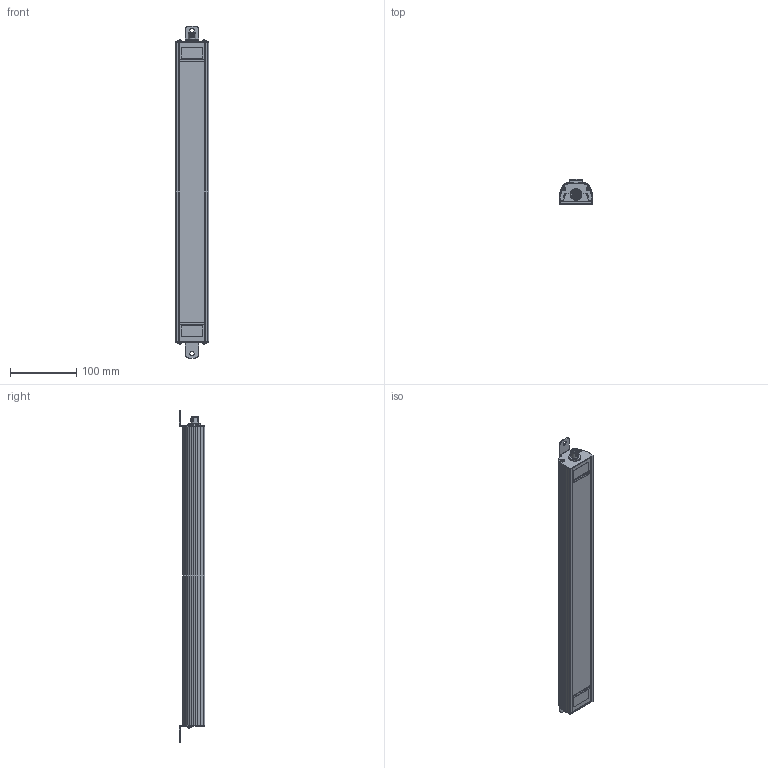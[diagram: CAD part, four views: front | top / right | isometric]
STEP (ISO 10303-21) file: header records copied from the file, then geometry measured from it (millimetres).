
FILE_DESCRIPTION (( 'STEP AP203' ), '1' );
FILE_NAME ('UV_LED_10 M12_24V.STEP', '2024-07-19T09:54:24', ( '' ), ( '' ), 'SwSTEP 2.0', 'SolidWorks 2024', '' );
FILE_SCHEMA (( 'CONFIG_CONTROL_DESIGN' ));
Length unit declared in the file: millimetre
Products named in the file (8): Befestigungswinkel_Phönix_f_WorkLED_fixed; 00370187-Einbausteckverb.SACC-E-4Con-M16; 00590210_Blechschraube_DIN7981_2,9x9,5_brüniert; UV_LED_10 M12_24V; Abdeckung_f. 1021_397mm; 00400295_Rahmen_Schalter_ohneFenster; Aluprofil_WorkLED_SE_UV-323; Befestigungswinkel_f_WorkLED_fixed
Assembly tree (11 placements, depth 2):
  UV_LED_10 M12_24V
    Aluprofil_WorkLED_SE_UV-323
    00400295_Rahmen_Schalter_ohneFenster  x2
    00370187-Einbausteckverb.SACC-E-4Con-M16
    00590210_Blechschraube_DIN7981_2,9x9,5_brüniert  x4
    Abdeckung_f. 1021_397mm
    Befestigungswinkel_f_WorkLED_fixed
    Befestigungswinkel_Phönix_f_WorkLED_fixed
Bounding box: 51.16 x 38 x 501.4 mm (x, y, z)
Volume: 188611.5 mm3; surface area: 229327.5 mm2
Topology: 11 solids, 11 shells, 884 faces, 2382 edges, 1535 vertices
Faces by surface type: plane 471, cylinder 305, bspline 99, cone 9
Full cylindrical faces by diameter (mm): 0.5 x3, 0.9 x4, 2.9 x4, 3.2 x4, 4 x4, 5.6 x4, 6.4 x2, 10.7 x1, 10.9 x1
Entity records: 29601 total; most frequent: CARTESIAN_POINT 10764, ORIENTED_EDGE 3878, DIRECTION 3533, EDGE_CURVE 1939, VERTEX_POINT 1263, AXIS2_PLACEMENT_3D 1178, VECTOR 1177, LINE 1177
